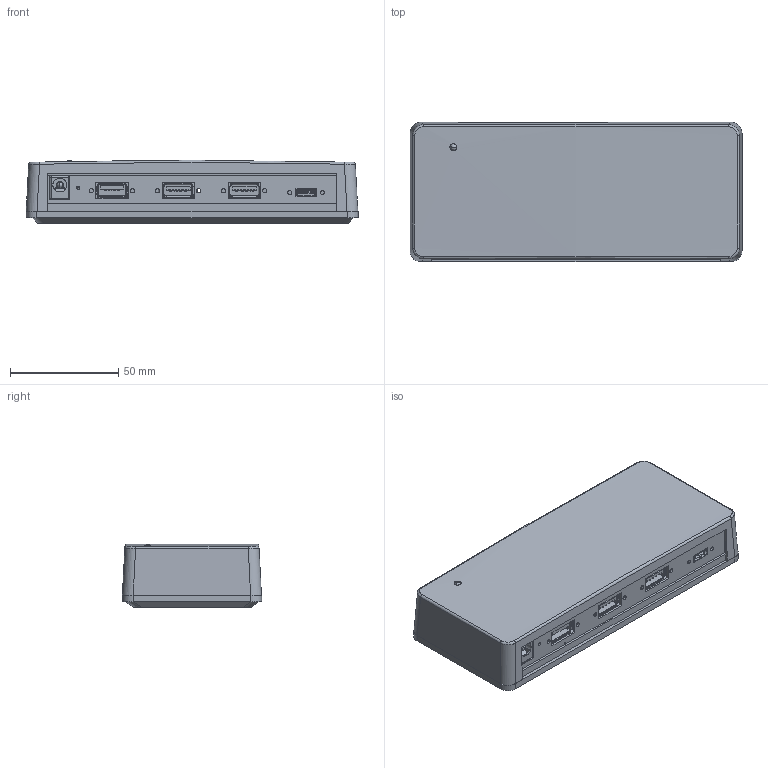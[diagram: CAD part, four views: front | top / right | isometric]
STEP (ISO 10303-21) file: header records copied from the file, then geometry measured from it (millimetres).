
FILE_DESCRIPTION(('FreeCAD Model'),'2;1');
FILE_NAME('X:/Technische Zeichnungen/EX-1182VIS-2/EX-1182VIS-2_3D.step', '2021-11-02T10:08:22',('Author'),(''), 'Open CASCADE STEP processor 7.3','FreeCAD','Unknown');
FILE_SCHEMA(('AUTOMOTIVE_DESIGN { 1 0 10303 214 1 1 1 1 }'));
Products named in the file (1): EX-1182VIS-2_3D
Bounding box: 153.1 x 64.22 x 29.3 mm (x, y, z)
Volume: 60998.1 mm3; surface area: 94111.9 mm2
Topology: 1 solids, 2 shells, 2864 faces, 8463 edges, 5600 vertices
Faces by surface type: plane 2136, cylinder 612, cone 35, torus 30, bspline 21, extrusion 16, sphere 8, revolution 6
Full cylindrical faces by diameter (mm): 0.55 x2, 1.5 x1, 1.8 x2, 2 x8, 2.6 x5, 3 x1, 3.2 x7, 4 x2, 5 x10, 6 x4, 8 x4, 8.1 x5
Entity records: 349137 total; most frequent: CARTESIAN_POINT 170072, DIRECTION 26663, VECTOR 17232, LINE 17216, ORIENTED_EDGE 16910, PCURVE 16910, DEFINITIONAL_REPRESENTATION 16910, EDGE_CURVE 8455
